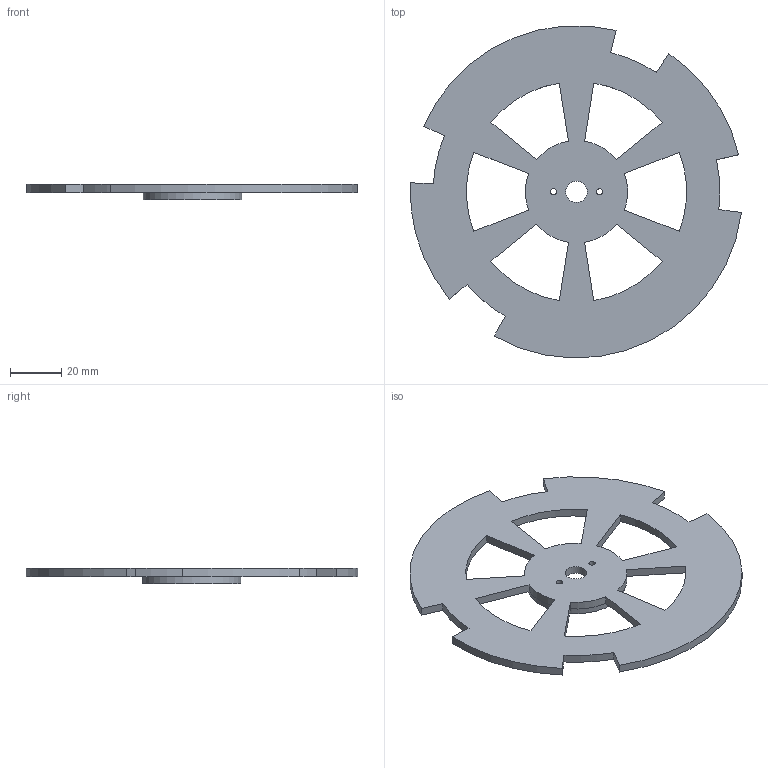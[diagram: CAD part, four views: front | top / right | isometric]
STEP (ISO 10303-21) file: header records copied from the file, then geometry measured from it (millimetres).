
FILE_DESCRIPTION(('Open CASCADE Model'),'2;1');
FILE_NAME('Open CASCADE Shape Model','2026-10-21T17:27:38',('Author'),( 'Open CASCADE'),'Open CASCADE STEP processor 7.9','Open CASCADE 7.9' ,'Unknown');
FILE_SCHEMA(('AUTOMOTIVE_DESIGN { 1 0 10303 214 1 1 1 1 }'));
Length unit declared in the file: millimetre
Products named in the file (1): Open CASCADE STEP translator 7.9 6
Bounding box: 129.2 x 129.6 x 6 mm (x, y, z)
Volume: 30411 mm3; surface area: 22503.3 mm2
Topology: 1 solids, 1 shells, 53 faces, 141 edges, 94 vertices
Faces by surface type: cylinder 27, plane 26
Full cylindrical faces by diameter (mm): 2.44 x2, 5.2 x2, 8.4 x1, 32.5 x1, 38.4 x1
Entity records: 3568 total; most frequent: CARTESIAN_POINT 839, DIRECTION 477, ORIENTED_EDGE 282, PCURVE 282, DEFINITIONAL_REPRESENTATION 282, LINE 239, VECTOR 239, EDGE_CURVE 141
